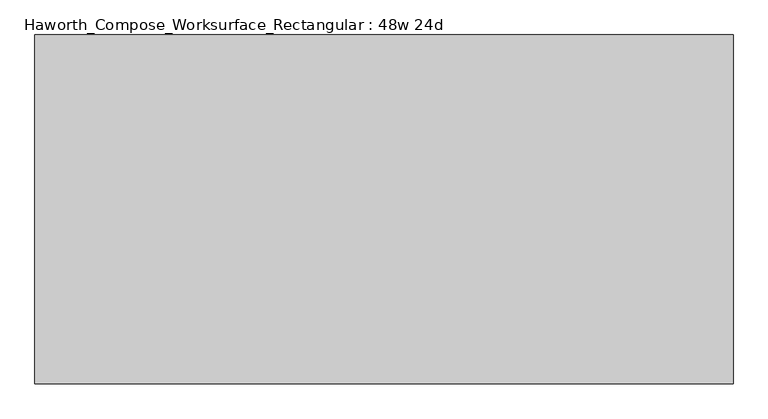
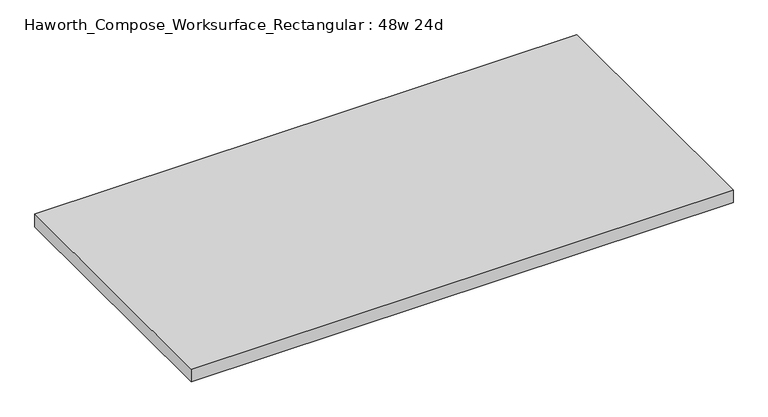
"""IFC4 building model written with IfcOpenShell, lengths in millimetres: furniture geometry, Haworth_Compose_Worksurface_Rectangular : 48w 24d."""

from ifc_helpers import new_model, si_unit, frame, origin, place, context, project, spatial, polyline, outline, extrude, source, transform, mapped, element, save


def haworth_compose_worksurface_rectangular_48w_24d_c59dcc68(model_context):
    return source(origin(), model_context, "Body", "SweptSolid", [
        extrude(outline(polyline([(609.6, 304.8), (609.6, -304.8), (-609.6, -304.8), (-609.6, 304.8), (609.6, 304.8)])), frame((0.0, 0.0, 706.4375), z_axis=(0.0, 0.0, 1.0), x_axis=(1.0, 0.0, 0.0)), (0.0, 0.0, 1.0), 30.1625),
    ])


if __name__ == "__main__":
    model = new_model("IFC4")
    model_context = context("Model", 3, world=origin())
    ifc_project = project(units=[si_unit("LENGTHUNIT", "METRE", prefix="MILLI")], contexts=[model_context])
    site = spatial("IfcSite", under=ifc_project)
    building = spatial("IfcBuilding", under=site)
    placement = place(None, origin())
    haworth_compose_worksurface_rectangular_48w_24d_shape = haworth_compose_worksurface_rectangular_48w_24d_c59dcc68(model_context)
    element("IfcFurniture", 1, ObjectType="Haworth_Compose_Worksurface_Rectangular : 48w 24d", at=placement, inside=building, context=model_context, shape_type="MappedRepresentation", body=[
        mapped(haworth_compose_worksurface_rectangular_48w_24d_shape, transform((0.0, 0.0, 0.0), x_axis=(1.0, 0.0, 0.0), y_axis=(0.0, 1.0, 0.0), z_axis=(0.0, 0.0, 1.0))),
    ])
    save(model, "model.ifc")
